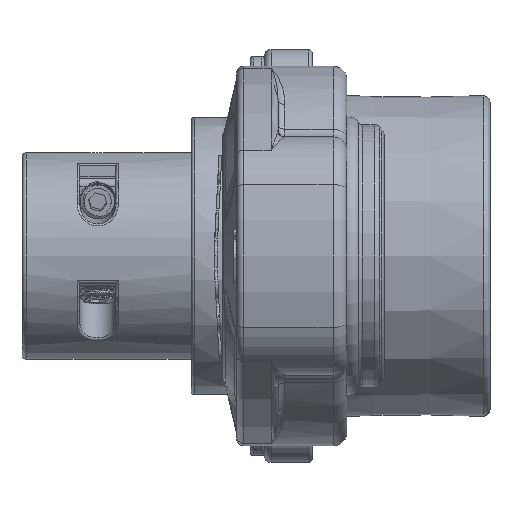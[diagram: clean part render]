
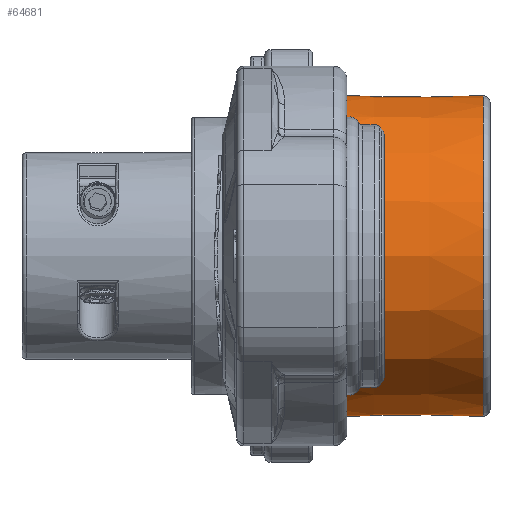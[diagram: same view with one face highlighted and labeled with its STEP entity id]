
A CAD part, front view. The second image highlights one B-rep face of the part: STEP entity #64681.
In plain terms, the highlighted conical face has half-angle 0.5 degrees and reference radius 11.65 mm.
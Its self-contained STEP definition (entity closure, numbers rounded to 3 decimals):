
#837 = CARTESIAN_POINT ( 'NONE',  ( -4.765, 8.752, -7.752 ) ) ;
#1742 = CARTESIAN_POINT ( 'NONE',  ( -12.404, 8.786, -7.814 ) ) ;
#1999 = ORIENTED_EDGE ( 'NONE', *, *, #6258, .T. ) ;
#5123 = VERTEX_POINT ( 'NONE', #39749 ) ;
#6258 = EDGE_CURVE ( 'NONE', #23257, #5123, #89044, .T. ) ;
#6885 = CARTESIAN_POINT ( 'NONE',  ( -0.496, 8.733, 7.718 ) ) ;
#8351 = CARTESIAN_POINT ( 'NONE',  ( -0.496, 8.733, -7.718 ) ) ;
#9741 = VERTEX_POINT ( 'NONE', #65077 ) ;
#10629 = B_SPLINE_CURVE_WITH_KNOTS ( 'NONE', 3,
 ( #1742, #51099, #43564, #87762, #837, #87291, #8351 ),
 .UNSPECIFIED., .F., .F.,
 ( 4, 3, 4 ),
 ( 0., 0.006, 0.012 ),
 .UNSPECIFIED. ) ;
#17002 = AXIS2_PLACEMENT_3D ( 'NONE', #45885, #52944, #39288 ) ;
#18924 = CIRCLE ( 'NONE', #29443, 11.654 ) ;
#20007 = CARTESIAN_POINT ( 'NONE',  ( -8.135, 8.767, 7.78 ) ) ;
#20481 = CARTESIAN_POINT ( 'NONE',  ( -0.496, 8.733, 7.718 ) ) ;
#23257 = VERTEX_POINT ( 'NONE', #23485 ) ;
#23485 = CARTESIAN_POINT ( 'NONE',  ( -12.404, 8.786, 7.814 ) ) ;
#24107 = CARTESIAN_POINT ( 'NONE',  ( 0., 0., 0. ) ) ;
#26216 = ORIENTED_EDGE ( 'NONE', *, *, #69436, .T. ) ;
#27351 = DIRECTION ( 'NONE',  ( 0., 0., -1. ) ) ;
#29443 = AXIS2_PLACEMENT_3D ( 'NONE', #63082, #91736, #27351 ) ;
#31620 = DIRECTION ( 'NONE',  ( -1., 0., 0. ) ) ;
#32887 = B_SPLINE_CURVE_WITH_KNOTS ( 'NONE', 3,
 ( #20481, #49143, #54336, #77829, #20007, #83018, #69849 ),
 .UNSPECIFIED., .F., .F.,
 ( 4, 3, 4 ),
 ( 0., 0.006, 0.012 ),
 .UNSPECIFIED. ) ;
#33119 = ORIENTED_EDGE ( 'NONE', *, *, #53312, .T. ) ;
#33177 = ORIENTED_EDGE ( 'NONE', *, *, #70792, .T. ) ;
#37001 = CONICAL_SURFACE ( 'NONE', #41459, 11.65, 0.009 ) ;
#39288 = DIRECTION ( 'NONE',  ( 0., 0., 1. ) ) ;
#39749 = CARTESIAN_POINT ( 'NONE',  ( -12.404, 8.786, -7.814 ) ) ;
#41459 = AXIS2_PLACEMENT_3D ( 'NONE', #24107, #31620, #81458 ) ;
#43564 = CARTESIAN_POINT ( 'NONE',  ( -8.735, 8.77, -7.785 ) ) ;
#45885 = CARTESIAN_POINT ( 'NONE',  ( -12.404, 0., 0. ) ) ;
#49143 = CARTESIAN_POINT ( 'NONE',  ( -2.33, 8.741, 7.733 ) ) ;
#51099 = CARTESIAN_POINT ( 'NONE',  ( -10.57, 8.778, -7.8 ) ) ;
#52944 = DIRECTION ( 'NONE',  ( 1., 0., 0. ) ) ;
#53312 = EDGE_CURVE ( 'NONE', #55317, #23257, #32887, .T. ) ;
#54336 = CARTESIAN_POINT ( 'NONE',  ( -4.165, 8.749, 7.747 ) ) ;
#55317 = VERTEX_POINT ( 'NONE', #6885 ) ;
#63082 = CARTESIAN_POINT ( 'NONE',  ( -0.496, 0., 0. ) ) ;
#64681 = ADVANCED_FACE ( 'NONE', ( #88518 ), #37001, .T. ) ;
#65077 = CARTESIAN_POINT ( 'NONE',  ( -0.496, 8.733, -7.718 ) ) ;
#69436 = EDGE_CURVE ( 'NONE', #9741, #55317, #18924, .T. ) ;
#69849 = CARTESIAN_POINT ( 'NONE',  ( -12.404, 8.786, 7.814 ) ) ;
#70792 = EDGE_CURVE ( 'NONE', #5123, #9741, #10629, .T. ) ;
#77829 = CARTESIAN_POINT ( 'NONE',  ( -6., 8.757, 7.762 ) ) ;
#81458 = DIRECTION ( 'NONE',  ( 0., 0., 1. ) ) ;
#83018 = CARTESIAN_POINT ( 'NONE',  ( -10.269, 8.776, 7.797 ) ) ;
#87291 = CARTESIAN_POINT ( 'NONE',  ( -2.631, 8.742, -7.735 ) ) ;
#87668 = EDGE_LOOP ( 'NONE', ( #33119, #1999, #33177, #26216 ) ) ;
#87762 = CARTESIAN_POINT ( 'NONE',  ( -6.9, 8.761, -7.77 ) ) ;
#88518 = FACE_OUTER_BOUND ( 'NONE', #87668, .T. ) ;
#89044 = CIRCLE ( 'NONE', #17002, 11.758 ) ;
#91736 = DIRECTION ( 'NONE',  ( -1., 0., 0. ) ) ;
